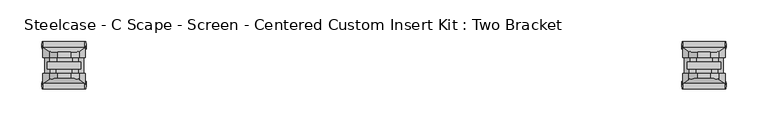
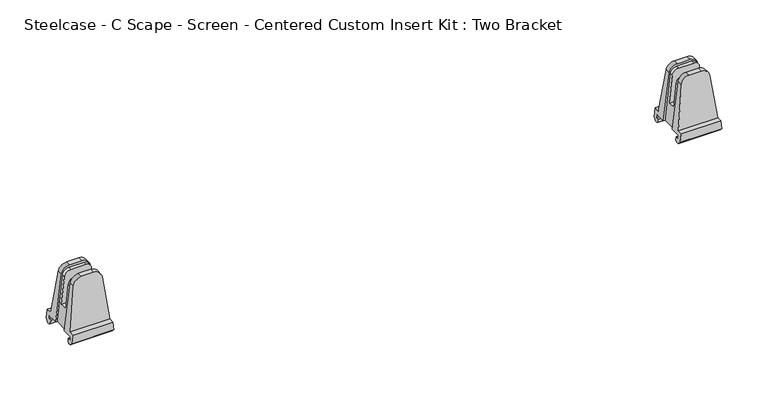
"""IFC4 building model written with IfcOpenShell, lengths in millimetres: furniture geometry, Steelcase - C Scape - Screen - Centered Custom Insert Kit : Two Bracket."""

from ifc_helpers import new_model, si_unit, frame, origin, place, context, project, spatial, circle_curve, ellipse_curve, source, transform, mapped, element, save
from ifc_brep_helpers import plane_surface, cylinder_surface, advanced_brep


def steelcase_c_scape_screen_centered_custom_insert_kit_two_15844b5a(model_context):
    return source(origin(), model_context, "Body", "AdvancedBrep", [
        advanced_brep(
        [(831.1509563, -3.1752569, 793.5976353), (838.7547419, -3.1752569, 793.5976353), (846.4009668, -3.1752569, 793.5976353), (846.4009668, 3.17474, 793.5976353), (838.7547419, 3.17474, 793.5976353), (831.1509563, 3.17474, 793.5976353), (820.8397645, -3.1752569, 784.4759275), (813.3961946, -3.1752569, 723.9), (815.4800991, -3.1752569, 723.9), (821.7386704, -3.1752569, 783.4463283), (829.7405253, -3.1752569, 790.6512308), (849.3384021, -3.1752569, 790.6512308), (855.6539246, -3.1752569, 784.9620449), (862.0430489, -3.1752569, 723.9), (864.1557285, -3.1752569, 723.9), (856.7121585, -3.1752569, 784.4759275), (813.3961946, 10.1600734, 723.9), (864.1557285, 10.1600734, 723.9), (862.0430489, -22.2252569, 723.9), (864.1557285, -22.2250614, 723.9), (864.1557285, -35.5603917, 723.9), (813.3961946, -35.5603917, 723.9), (813.3961946, -22.2250614, 723.9), (815.4800991, -22.2250614, 723.9), (812.9275467, 10.1600734, 720.086134), (864.6243764, 10.1600734, 720.086134), (812.9275467, 6.7312129, 720.086134), (864.6243764, 6.7312129, 720.086134), (812.3969536, 6.7312129, 715.7681562), (865.1549695, 6.7312129, 715.7681562), (812.1863055, 9.1438564, 714.375), (865.3231783, 9.1438564, 714.375), (812.2257626, 11.8111354, 714.375), (865.3231783, 11.8111354, 714.375), (812.6939371, 15.6202052, 718.1850145), (864.8579859, 15.6202052, 718.1850145), (814.0422753, 15.6202052, 729.1578186), (863.5096478, 15.6202052, 729.1578186), (814.0422753, 8.8135415, 729.1578186), (863.5096478, 8.8135415, 729.1578186), (820.8397645, 3.9729344, 784.4759275), (856.7121585, 3.9729344, 784.4759275), (814.0422753, -34.2138598, 729.1578186), (863.5096478, -34.2138598, 729.1578186), (856.7121585, -29.3732527, 784.4759275), (846.4009668, -28.5750583, 793.5976353), (838.7547419, -28.5750583, 793.5976353), (831.1509563, -28.5750583, 793.5976353), (820.8397645, -29.3732527, 784.4759275), (814.0422753, -41.0205235, 729.1578186), (863.5096478, -41.0205235, 729.1578186), (812.6939371, -41.0205235, 718.1850145), (864.8579859, -41.0205235, 718.1850145), (812.1863055, -37.2114537, 714.375), (865.3231783, -37.2114537, 714.375), (812.2257626, -34.5441746, 714.375), (865.3231783, -34.5441746, 714.375), (812.3969536, -32.1315312, 715.7681562), (865.1549695, -32.1315312, 715.7681562), (812.9275467, -32.1315312, 720.086134), (864.6243764, -32.1315312, 720.086134), (812.9275467, -35.5603917, 720.086134), (864.6243764, -35.5603917, 720.086134), (831.1509563, -22.2250614, 793.5976353), (838.7547419, -22.2250614, 793.5976353), (846.4009668, -22.2250614, 793.5976353), (856.7121585, -22.2250614, 784.4759275), (856.1960885, -22.2250614, 779.780484), (848.4144113, -22.2250614, 786.79042), (828.887828, -22.2250614, 786.79042), (821.3795976, -22.2250614, 780.0299789), (820.8397645, -22.2250614, 784.4759275), (828.887828, -17.4500569, 786.79042), (848.4144113, -17.4500569, 786.79042), (856.1960885, -17.4500569, 779.780484), (859.4810426, -17.4500569, 748.3855694), (818.0536361, -17.4500569, 748.3855694), (821.3795976, -17.4500569, 780.0299789), (818.0536361, -7.9504569, 748.3855694), (821.7386704, -7.9504569, 783.4463283), (855.6539246, -7.9504569, 784.9620449), (859.4810426, -7.9504569, 748.3855694), (829.7405253, -7.9504569, 790.6512308), (849.3384021, -7.9504569, 790.6512308)],
        [
            (0, 1),
            (1, 2),
            (2, 3),
            (3, 4),
            (4, 5),
            (5, 0),
            (0, 6, circle_curve(frame((831.1509563, -3.1752569, 783.2088883), z_axis=(0.0, -1.0, 0.0), x_axis=(-1.0, 0.0, 0.0)), 10.388747)),
            (6, 7),
            (7, 8),
            (8, 9),
            (9, 10, circle_curve(frame((829.7405253, -3.1752569, 782.6052995), z_axis=(0.0, 1.0, 0.0), x_axis=(1.0, 0.0, 0.0)), 8.0459313)),
            (10, 11),
            (11, 12, circle_curve(frame((849.3384021, -3.1752569, 784.3012308), z_axis=(0.0, 1.0, 0.0), x_axis=(1.0, 0.0, 0.0)), 6.35)),
            (12, 13),
            (13, 14),
            (14, 15),
            (15, 2, circle_curve(frame((846.4009668, -3.1752569, 783.2088883), z_axis=(0.0, -1.0, 0.0), x_axis=(1.0, 0.0, 0.0)), 10.388747)),
            (16, 17),
            (17, 14),
            (13, 18),
            (18, 19),
            (19, 20),
            (20, 21),
            (21, 22),
            (22, 23),
            (23, 8),
            (7, 16),
            (16, 24),
            (24, 25),
            (25, 17),
            (24, 26),
            (26, 27),
            (27, 25),
            (26, 28),
            (28, 29),
            (29, 27),
            (30, 31),
            (31, 29),
            (28, 30),
            (30, 32),
            (32, 33),
            (33, 31),
            (32, 34),
            (34, 35),
            (35, 33),
            (34, 36),
            (36, 37),
            (37, 35),
            (36, 38),
            (38, 39),
            (39, 37),
            (38, 40),
            (40, 5, ellipse_curve(frame((831.1509563, 4.0838066, 783.2088883), z_axis=(0.0, 0.9961932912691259, 0.08717182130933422), x_axis=(0.0, 0.08717182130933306, -0.9961932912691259)), 10.428445, 10.388747)),
            (3, 41, ellipse_curve(frame((846.4009668, 4.0838066, 783.2088883), z_axis=(0.0, 0.9961932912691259, 0.08717182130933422), x_axis=(0.0, 0.08717182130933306, -0.9961932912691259)), 10.428445, 10.388747)),
            (41, 39),
            (42, 43),
            (43, 44),
            (44, 45, ellipse_curve(frame((846.4009668, -29.4841248, 783.2088883), z_axis=(0.0, -0.9961932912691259, 0.08717182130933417), x_axis=(0.0, 0.08717182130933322, 0.996193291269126)), 10.428445, 10.388747)),
            (45, 46),
            (46, 47),
            (47, 48, ellipse_curve(frame((831.1509563, -29.4841248, 783.2088883), z_axis=(0.0, -0.9961932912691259, 0.08717182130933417), x_axis=(0.0, 0.08717182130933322, 0.996193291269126)), 10.428445, 10.388747)),
            (48, 42),
            (42, 49),
            (49, 50),
            (50, 43),
            (49, 51),
            (51, 52),
            (52, 50),
            (53, 54),
            (54, 52),
            (51, 53),
            (53, 55),
            (55, 56),
            (56, 54),
            (55, 57),
            (57, 58),
            (58, 56),
            (57, 59),
            (59, 60),
            (60, 58),
            (59, 61),
            (61, 62),
            (62, 60),
            (61, 21),
            (20, 62),
            (63, 64),
            (64, 65),
            (65, 66, circle_curve(frame((846.4009668, -22.2250614, 783.2088883), z_axis=(0.0, 1.0, 0.0), x_axis=(1.0, 0.0, 0.0)), 10.388747)),
            (66, 19),
            (18, 67),
            (67, 68, circle_curve(frame((848.4144113, -22.2250614, 778.9662613), z_axis=(0.0, -1.0, 0.0), x_axis=(1.0, 0.0, 0.0)), 7.8241587)),
            (68, 69),
            (69, 70, circle_curve(frame((828.887828, -22.2250614, 779.2408321), z_axis=(0.0, -1.0, 0.0), x_axis=(1.0, 0.0, 0.0)), 7.5495878)),
            (70, 23),
            (22, 71),
            (71, 63, circle_curve(frame((831.1509563, -22.2250614, 783.2088883), z_axis=(0.0, 1.0, 0.0), x_axis=(-1.0, 0.0, 0.0)), 10.388747)),
            (45, 65),
            (63, 47),
            (6, 40),
            (48, 71),
            (15, 41),
            (44, 66),
            (72, 73),
            (73, 74, circle_curve(frame((848.4144113, -17.4500569, 778.9662613), z_axis=(0.0, 1.0, 0.0), x_axis=(1.0, 0.0, 0.0)), 7.8241587)),
            (74, 75),
            (75, 76),
            (76, 77),
            (77, 72, circle_curve(frame((828.887828, -17.4500569, 779.2408321), z_axis=(0.0, 1.0, 0.0), x_axis=(1.0, 0.0, 0.0)), 7.5495878)),
            (77, 70),
            (69, 72),
            (76, 78),
            (78, 79),
            (79, 9),
            (12, 80),
            (80, 81),
            (81, 75),
            (74, 67),
            (73, 68),
            (82, 79, circle_curve(frame((829.7405253, -7.9504569, 782.6052995), z_axis=(0.0, -1.0, 0.0), x_axis=(1.0, 0.0, 0.0)), 8.0459313)),
            (78, 81),
            (80, 83, circle_curve(frame((849.3384021, -7.9504569, 784.3012308), z_axis=(0.0, -1.0, 0.0), x_axis=(1.0, 0.0, 0.0)), 6.35)),
            (83, 82),
            (82, 10),
            (11, 83),
        ],
        [
            plane_surface(frame((865.3231783, 3.17474, 793.5976353), z_axis=(0.0, 0.0, 1.0), x_axis=(-1.0, 0.0, 0.0))),
            plane_surface(frame((865.3231783, -3.1752569, 793.5976353), z_axis=(0.0, -1.0, 0.0), x_axis=(-1.0, 0.0, 0.0))),
            plane_surface(frame((865.3231783, -3.1752569, 723.9), z_axis=(0.0, 0.0, -1.0), x_axis=(-1.0, 0.0, 0.0))),
            plane_surface(frame((865.3231783, 10.1600734, 723.9), z_axis=(0.0, -1.0, 0.0), x_axis=(-1.0, 0.0, 0.0))),
            plane_surface(frame((865.3231783, 10.1600734, 720.086134), z_axis=(0.0, 0.0, 1.0), x_axis=(-1.0, 0.0, 0.0))),
            plane_surface(frame((865.3231783, 6.7312129, 720.086134), z_axis=(0.0, -1.0, 0.0), x_axis=(-1.0, 0.0, 0.0))),
            plane_surface(frame((865.3231783, 6.7312129, 715.7681562), z_axis=(0.0, -0.5000581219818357, -0.8659918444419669), x_axis=(-1.0, 0.0, 0.0))),
            plane_surface(frame((865.3231783, 9.1438564, 714.375), z_axis=(0.0, 0.0, -1.0), x_axis=(-1.0, 0.0, 0.0))),
            plane_surface(frame((865.3231783, 11.8111354, 714.375), z_axis=(0.0, 0.7071944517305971, -0.7070190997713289), x_axis=(-1.0, 0.0, 0.0))),
            plane_surface(frame((865.3231783, 15.6202052, 718.1850145), z_axis=(0.0, 1.0, 0.0), x_axis=(-1.0, 0.0, 0.0))),
            plane_surface(frame((865.3231783, 15.6202052, 729.1578186), z_axis=(0.0, 0.0, 1.0), x_axis=(-1.0, 0.0, 0.0))),
            plane_surface(frame((865.3231783, 8.8135415, 729.1578186), z_axis=(0.0, 0.9961932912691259, 0.08717182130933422), x_axis=(-1.0, 0.0, 0.0))),
            plane_surface(frame((865.3231783, -28.5750583, 793.5976353), z_axis=(0.0, -0.9961932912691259, 0.08717182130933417), x_axis=(-1.0, 0.0, 0.0))),
            plane_surface(frame((865.3231783, -34.2138598, 729.1578186), z_axis=(0.0, 0.0, 1.0), x_axis=(-1.0, 0.0, 0.0))),
            plane_surface(frame((865.3231783, -41.0205235, 729.1578186), z_axis=(0.0, -1.0, 0.0), x_axis=(-1.0, 0.0, 0.0))),
            plane_surface(frame((865.3231783, -41.0205235, 718.1850145), z_axis=(0.0, -0.7071944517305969, -0.707019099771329), x_axis=(-1.0, 0.0, 0.0))),
            plane_surface(frame((865.3231783, -37.2114537, 714.375), z_axis=(0.0, 0.0, -1.0), x_axis=(-1.0, 0.0, 0.0))),
            plane_surface(frame((865.3231783, -34.5441746, 714.375), z_axis=(0.0, 0.5000581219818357, -0.8659918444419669), x_axis=(-1.0, 0.0, 0.0))),
            plane_surface(frame((865.3231783, -32.1315312, 715.7681562), z_axis=(0.0, 1.0, 0.0), x_axis=(-1.0, 0.0, 0.0))),
            plane_surface(frame((865.3231783, -32.1315312, 720.086134), z_axis=(0.0, 0.0, 1.0), x_axis=(-1.0, 0.0, 0.0))),
            plane_surface(frame((865.3231783, -35.5603917, 720.086134), z_axis=(0.0, 1.0, 0.0), x_axis=(-1.0, 0.0, 0.0))),
            plane_surface(frame((865.3231783, -22.2250614, 723.9), z_axis=(0.0, 1.0, 0.0), x_axis=(-1.0, 0.0, 0.0))),
            plane_surface(frame((865.3231783, -22.2250614, 793.5976353), z_axis=(0.0, 0.0, 1.0), x_axis=(-1.0, 0.0, 0.0))),
            plane_surface(frame((812.2257626, -43.2064559, 714.375), z_axis=(-0.9925346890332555, 0.0, 0.12196266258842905), x_axis=(0.0, 1.0, 0.0))),
            cylinder_surface(frame((831.1509563, 17.5208706, 783.2088883), z_axis=(0.0, 1.0, 0.0), x_axis=(-1.0, 0.0, 0.0)), 10.388747),
            cylinder_surface(frame((846.4009668, 17.5208706, 783.2088883), z_axis=(0.0, 1.0, 0.0), x_axis=(1.0, 0.0, 0.0)), 10.388747),
            plane_surface(frame((856.7121585, -43.2064559, 784.4759275), z_axis=(0.9925346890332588, 0.0, 0.12196266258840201), x_axis=(0.0, 1.0, 0.0))),
            plane_surface(frame((836.4374158, -17.4500569, 779.2408321), z_axis=(0.0, 1.0, 0.0), x_axis=(0.0, 0.0, -1.0))),
            cylinder_surface(frame((828.887828, -17.4500569, 779.2408321), z_axis=(0.0, -1.0, 0.0), x_axis=(1.0, 0.0, 0.0)), 7.5495878),
            plane_surface(frame((821.3795976, -22.2252569, 780.0299789), z_axis=(-0.9945218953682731, 0.0, 0.10452846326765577), x_axis=(0.0, 1.0, 0.0))),
            plane_surface(frame((862.0430489, -22.2252569, 723.9), z_axis=(0.9945704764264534, 0.0, 0.10406520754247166), x_axis=(0.0, 1.0, 0.0))),
            cylinder_surface(frame((848.4144113, -17.4500569, 778.9662613), z_axis=(0.0, -1.0, 0.0), x_axis=(1.0, 0.0, 0.0)), 7.8241587),
            plane_surface(frame((848.4144113, -22.2252569, 786.79042), z_axis=(0.0, 0.0, 1.0), x_axis=(0.0, 1.0, 0.0))),
            plane_surface(frame((837.7864566, -7.9504569, 782.6052995), z_axis=(0.0, -1.0, 0.0), x_axis=(0.0, 0.0, 1.0))),
            cylinder_surface(frame((829.7405253, -3.1752569, 782.6052995), z_axis=(0.0, -1.0, 0.0), x_axis=(1.0, 0.0, 0.0)), 8.0459313),
            cylinder_surface(frame((849.3384021, -3.1752569, 784.3012308), z_axis=(0.0, -1.0, 0.0), x_axis=(1.0, 0.0, 0.0)), 6.35),
            plane_surface(frame((849.3384021, -7.9504569, 790.6512308), z_axis=(0.0, 0.0, 1.0), x_axis=(0.0, 1.0, 0.0))),
            plane_surface(frame((859.4810426, -17.4500569, 748.3855694), z_axis=(0.0, 0.0, 1.0), x_axis=(0.0, 1.0, 0.0))),
        ],
        [
            (0, [[1, 2, 3, 4, 5, 6]]),
            (1, [[-1, 7, 8, 9, 10, 11, 12, 13, 14, 15, 16, 17, -2]]),
            (2, [[18, 19, -15, 20, 21, 22, 23, 24, 25, 26, -9, 27]]),
            (3, [[-18, 28, 29, 30]]),
            (4, [[-29, 31, 32, 33]]),
            (5, [[-32, 34, 35, 36]]),
            (6, [[37, 38, -35, 39]]),
            (7, [[-37, 40, 41, 42]]),
            (8, [[-41, 43, 44, 45]]),
            (9, [[-44, 46, 47, 48]]),
            (10, [[-47, 49, 50, 51]]),
            (11, [[-50, 52, 53, -5, -4, 54, 55]]),
            (12, [[56, 57, 58, 59, 60, 61, 62]]),
            (13, [[-56, 63, 64, 65]]),
            (14, [[-64, 66, 67, 68]]),
            (15, [[69, 70, -67, 71]]),
            (16, [[-69, 72, 73, 74]]),
            (17, [[-73, 75, 76, 77]]),
            (18, [[-76, 78, 79, 80]]),
            (19, [[-79, 81, 82, 83]]),
            (20, [[-82, 84, -23, 85]]),
            (21, [[86, 87, 88, 89, -21, 90, 91, 92, 93, 94, -25, 95, 96]]),
            (22, [[-59, 97, -87, -86, 98, -60]]),
            (23, [[99, -52, -49, -46, -43, -40, -39, -34, -31, -28, -27, -8]]),
            (23, [[100, -95, -24, -84, -81, -78, -75, -72, -71, -66, -63, -62]]),
            (24, [[-99, -7, -6, -53]]),
            (24, [[-100, -61, -98, -96]]),
            (25, [[101, -54, -3, -17]]),
            (25, [[102, -88, -97, -58]]),
            (26, [[-101, -16, -19, -30, -33, -36, -38, -42, -45, -48, -51, -55]]),
            (26, [[-102, -57, -65, -68, -70, -74, -77, -80, -83, -85, -22, -89]]),
            (27, [[103, 104, 105, 106, 107, 108]]),
            (28, [[-108, 109, -93, 110]]),
            (29, [[-109, -107, 111, 112, 113, -10, -26, -94]]),
            (30, [[-20, -14, 114, 115, 116, -105, 117, -90]]),
            (31, [[-104, 118, -91, -117]]),
            (32, [[-103, -110, -92, -118]]),
            (33, [[119, -112, 120, -115, 121, 122]]),
            (34, [[-119, 123, -11, -113]]),
            (35, [[-121, -114, -13, 124]]),
            (36, [[-122, -124, -12, -123]]),
            (37, [[-111, -106, -116, -120]]),
        ],
    ),
        advanced_brep(
        [(67.0173627, -3.1752569, 793.5976353), (74.6211483, -3.1752569, 793.5976353), (82.2673732, -3.1752569, 793.5976353), (82.2673732, 3.17474, 793.5976353), (74.6211483, 3.17474, 793.5976353), (67.0173627, 3.17474, 793.5976353), (56.706171, -3.1752569, 784.4759275), (49.262601, -3.1752569, 723.9), (51.3465055, -3.1752569, 723.9), (57.6050768, -3.1752569, 783.4463283), (65.6069317, -3.1752569, 790.6512308), (85.2048085, -3.1752569, 790.6512308), (91.520331, -3.1752569, 784.9620449), (97.9094553, -3.1752569, 723.9), (100.0221349, -3.1752569, 723.9), (92.578565, -3.1752569, 784.4759275), (49.262601, 10.1600734, 723.9), (100.0221349, 10.1600734, 723.9), (97.9094553, -22.2252569, 723.9), (100.0221349, -22.2250614, 723.9), (100.0221349, -35.5603917, 723.9), (49.262601, -35.5603917, 723.9), (49.262601, -22.2250614, 723.9), (51.3465055, -22.2250614, 723.9), (48.7939531, 10.1600734, 720.086134), (100.4907828, 10.1600734, 720.086134), (48.7939531, 6.7312129, 720.086134), (100.4907828, 6.7312129, 720.086134), (48.26336, 6.7312129, 715.7681562), (101.0213759, 6.7312129, 715.7681562), (48.0527119, 9.1438564, 714.375), (101.1895848, 9.1438564, 714.375), (48.092169, 11.8111354, 714.375), (101.1895848, 11.8111354, 714.375), (48.5603436, 15.6202052, 718.1850145), (100.7243923, 15.6202052, 718.1850145), (49.9086817, 15.6202052, 729.1578186), (99.3760542, 15.6202052, 729.1578186), (49.9086817, 8.8135415, 729.1578186), (99.3760542, 8.8135415, 729.1578186), (56.706171, 3.9729344, 784.4759275), (92.578565, 3.9729344, 784.4759275), (49.9086817, -34.2138598, 729.1578186), (99.3760542, -34.2138598, 729.1578186), (92.578565, -29.3732527, 784.4759275), (82.2673732, -28.5750583, 793.5976353), (74.6211483, -28.5750583, 793.5976353), (67.0173627, -28.5750583, 793.5976353), (56.706171, -29.3732527, 784.4759275), (49.9086817, -41.0205235, 729.1578186), (99.3760542, -41.0205235, 729.1578186), (48.5603436, -41.0205235, 718.1850145), (100.7243923, -41.0205235, 718.1850145), (48.0527119, -37.2114537, 714.375), (101.1895848, -37.2114537, 714.375), (48.092169, -34.5441746, 714.375), (101.1895848, -34.5441746, 714.375), (48.26336, -32.1315312, 715.7681562), (101.0213759, -32.1315312, 715.7681562), (48.7939531, -32.1315312, 720.086134), (100.4907828, -32.1315312, 720.086134), (48.7939531, -35.5603917, 720.086134), (100.4907828, -35.5603917, 720.086134), (67.0173627, -22.2250614, 793.5976353), (74.6211483, -22.2250614, 793.5976353), (82.2673732, -22.2250614, 793.5976353), (92.578565, -22.2250614, 784.4759275), (92.0624949, -22.2250614, 779.780484), (84.2808177, -22.2250614, 786.79042), (64.7542344, -22.2250614, 786.79042), (57.246004, -22.2250614, 780.0299789), (56.706171, -22.2250614, 784.4759275), (64.7542344, -17.4500569, 786.79042), (84.2808177, -17.4500569, 786.79042), (92.0624949, -17.4500569, 779.780484), (95.347449, -17.4500569, 748.3855694), (53.9200426, -17.4500569, 748.3855694), (57.246004, -17.4500569, 780.0299789), (53.9200426, -7.9504569, 748.3855694), (57.6050768, -7.9504569, 783.4463283), (91.520331, -7.9504569, 784.9620449), (95.347449, -7.9504569, 748.3855694), (65.6069317, -7.9504569, 790.6512308), (85.2048085, -7.9504569, 790.6512308)],
        [
            (0, 1),
            (1, 2),
            (2, 3),
            (3, 4),
            (4, 5),
            (5, 0),
            (0, 6, circle_curve(frame((67.0173627, -3.1752569, 783.2088883), z_axis=(0.0, -1.0, 0.0), x_axis=(-1.0, 0.0, 0.0)), 10.388747)),
            (6, 7),
            (7, 8),
            (8, 9),
            (9, 10, circle_curve(frame((65.6069317, -3.1752569, 782.6052995), z_axis=(0.0, 1.0, 0.0), x_axis=(1.0, 0.0, 0.0)), 8.0459313)),
            (10, 11),
            (11, 12, circle_curve(frame((85.2048085, -3.1752569, 784.3012308), z_axis=(0.0, 1.0, 0.0), x_axis=(1.0, 0.0, 0.0)), 6.35)),
            (12, 13),
            (13, 14),
            (14, 15),
            (15, 2, circle_curve(frame((82.2673732, -3.1752569, 783.2088883), z_axis=(0.0, -1.0, 0.0), x_axis=(1.0, 0.0, 0.0)), 10.388747)),
            (16, 17),
            (17, 14),
            (13, 18),
            (18, 19),
            (19, 20),
            (20, 21),
            (21, 22),
            (22, 23),
            (23, 8),
            (7, 16),
            (16, 24),
            (24, 25),
            (25, 17),
            (24, 26),
            (26, 27),
            (27, 25),
            (26, 28),
            (28, 29),
            (29, 27),
            (30, 31),
            (31, 29),
            (28, 30),
            (30, 32),
            (32, 33),
            (33, 31),
            (32, 34),
            (34, 35),
            (35, 33),
            (34, 36),
            (36, 37),
            (37, 35),
            (36, 38),
            (38, 39),
            (39, 37),
            (38, 40),
            (40, 5, ellipse_curve(frame((67.0173627, 4.0838066, 783.2088883), z_axis=(0.0, 0.9961932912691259, 0.08717182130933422), x_axis=(0.0, 0.08717182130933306, -0.9961932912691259)), 10.428445, 10.388747)),
            (3, 41, ellipse_curve(frame((82.2673732, 4.0838066, 783.2088883), z_axis=(0.0, 0.9961932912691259, 0.08717182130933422), x_axis=(0.0, 0.08717182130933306, -0.9961932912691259)), 10.428445, 10.388747)),
            (41, 39),
            (42, 43),
            (43, 44),
            (44, 45, ellipse_curve(frame((82.2673732, -29.4841248, 783.2088883), z_axis=(0.0, -0.9961932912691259, 0.08717182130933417), x_axis=(0.0, 0.08717182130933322, 0.996193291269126)), 10.428445, 10.388747)),
            (45, 46),
            (46, 47),
            (47, 48, ellipse_curve(frame((67.0173627, -29.4841248, 783.2088883), z_axis=(0.0, -0.9961932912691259, 0.08717182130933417), x_axis=(0.0, 0.08717182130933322, 0.996193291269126)), 10.428445, 10.388747)),
            (48, 42),
            (42, 49),
            (49, 50),
            (50, 43),
            (49, 51),
            (51, 52),
            (52, 50),
            (53, 54),
            (54, 52),
            (51, 53),
            (53, 55),
            (55, 56),
            (56, 54),
            (55, 57),
            (57, 58),
            (58, 56),
            (57, 59),
            (59, 60),
            (60, 58),
            (59, 61),
            (61, 62),
            (62, 60),
            (61, 21),
            (20, 62),
            (63, 64),
            (64, 65),
            (65, 66, circle_curve(frame((82.2673732, -22.2250614, 783.2088883), z_axis=(0.0, 1.0, 0.0), x_axis=(1.0, 0.0, 0.0)), 10.388747)),
            (66, 19),
            (18, 67),
            (67, 68, circle_curve(frame((84.2808177, -22.2250614, 778.9662613), z_axis=(0.0, -1.0, 0.0), x_axis=(1.0, 0.0, 0.0)), 7.8241587)),
            (68, 69),
            (69, 70, circle_curve(frame((64.7542344, -22.2250614, 779.2408321), z_axis=(0.0, -1.0, 0.0), x_axis=(1.0, 0.0, 0.0)), 7.5495878)),
            (70, 23),
            (22, 71),
            (71, 63, circle_curve(frame((67.0173627, -22.2250614, 783.2088883), z_axis=(0.0, 1.0, 0.0), x_axis=(-1.0, 0.0, 0.0)), 10.388747)),
            (45, 65),
            (63, 47),
            (6, 40),
            (48, 71),
            (15, 41),
            (44, 66),
            (72, 73),
            (73, 74, circle_curve(frame((84.2808177, -17.4500569, 778.9662613), z_axis=(0.0, 1.0, 0.0), x_axis=(1.0, 0.0, 0.0)), 7.8241587)),
            (74, 75),
            (75, 76),
            (76, 77),
            (77, 72, circle_curve(frame((64.7542344, -17.4500569, 779.2408321), z_axis=(0.0, 1.0, 0.0), x_axis=(1.0, 0.0, 0.0)), 7.5495878)),
            (77, 70),
            (69, 72),
            (76, 78),
            (78, 79),
            (79, 9),
            (12, 80),
            (80, 81),
            (81, 75),
            (74, 67),
            (73, 68),
            (82, 79, circle_curve(frame((65.6069317, -7.9504569, 782.6052995), z_axis=(0.0, -1.0, 0.0), x_axis=(1.0, 0.0, 0.0)), 8.0459313)),
            (78, 81),
            (80, 83, circle_curve(frame((85.2048085, -7.9504569, 784.3012308), z_axis=(0.0, -1.0, 0.0), x_axis=(1.0, 0.0, 0.0)), 6.35)),
            (83, 82),
            (82, 10),
            (11, 83),
        ],
        [
            plane_surface(frame((101.1895848, 3.17474, 793.5976353), z_axis=(0.0, 0.0, 1.0), x_axis=(-1.0, 0.0, 0.0))),
            plane_surface(frame((101.1895848, -3.1752569, 793.5976353), z_axis=(0.0, -1.0, 0.0), x_axis=(-1.0, 0.0, 0.0))),
            plane_surface(frame((101.1895848, -3.1752569, 723.9), z_axis=(0.0, 0.0, -1.0), x_axis=(-1.0, 0.0, 0.0))),
            plane_surface(frame((101.1895848, 10.1600734, 723.9), z_axis=(0.0, -1.0, 0.0), x_axis=(-1.0, 0.0, 0.0))),
            plane_surface(frame((101.1895848, 10.1600734, 720.086134), z_axis=(0.0, 0.0, 1.0), x_axis=(-1.0, 0.0, 0.0))),
            plane_surface(frame((101.1895848, 6.7312129, 720.086134), z_axis=(0.0, -1.0, 0.0), x_axis=(-1.0, 0.0, 0.0))),
            plane_surface(frame((101.1895848, 6.7312129, 715.7681562), z_axis=(0.0, -0.5000581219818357, -0.8659918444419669), x_axis=(-1.0, 0.0, 0.0))),
            plane_surface(frame((101.1895848, 9.1438564, 714.375), z_axis=(0.0, 0.0, -1.0), x_axis=(-1.0, 0.0, 0.0))),
            plane_surface(frame((101.1895848, 11.8111354, 714.375), z_axis=(0.0, 0.7071944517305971, -0.7070190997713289), x_axis=(-1.0, 0.0, 0.0))),
            plane_surface(frame((101.1895848, 15.6202052, 718.1850145), z_axis=(0.0, 1.0, 0.0), x_axis=(-1.0, 0.0, 0.0))),
            plane_surface(frame((101.1895848, 15.6202052, 729.1578186), z_axis=(0.0, 0.0, 1.0), x_axis=(-1.0, 0.0, 0.0))),
            plane_surface(frame((101.1895848, 8.8135415, 729.1578186), z_axis=(0.0, 0.9961932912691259, 0.08717182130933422), x_axis=(-1.0, 0.0, 0.0))),
            plane_surface(frame((101.1895848, -28.5750583, 793.5976353), z_axis=(0.0, -0.9961932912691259, 0.08717182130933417), x_axis=(-1.0, 0.0, 0.0))),
            plane_surface(frame((101.1895848, -34.2138598, 729.1578186), z_axis=(0.0, 0.0, 1.0), x_axis=(-1.0, 0.0, 0.0))),
            plane_surface(frame((101.1895848, -41.0205235, 729.1578186), z_axis=(0.0, -1.0, 0.0), x_axis=(-1.0, 0.0, 0.0))),
            plane_surface(frame((101.1895848, -41.0205235, 718.1850145), z_axis=(0.0, -0.7071944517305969, -0.707019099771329), x_axis=(-1.0, 0.0, 0.0))),
            plane_surface(frame((101.1895848, -37.2114537, 714.375), z_axis=(0.0, 0.0, -1.0), x_axis=(-1.0, 0.0, 0.0))),
            plane_surface(frame((101.1895848, -34.5441746, 714.375), z_axis=(0.0, 0.5000581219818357, -0.8659918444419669), x_axis=(-1.0, 0.0, 0.0))),
            plane_surface(frame((101.1895848, -32.1315312, 715.7681562), z_axis=(0.0, 1.0, 0.0), x_axis=(-1.0, 0.0, 0.0))),
            plane_surface(frame((101.1895848, -32.1315312, 720.086134), z_axis=(0.0, 0.0, 1.0), x_axis=(-1.0, 0.0, 0.0))),
            plane_surface(frame((101.1895848, -35.5603917, 720.086134), z_axis=(0.0, 1.0, 0.0), x_axis=(-1.0, 0.0, 0.0))),
            plane_surface(frame((101.1895848, -22.2250614, 723.9), z_axis=(0.0, 1.0, 0.0), x_axis=(-1.0, 0.0, 0.0))),
            plane_surface(frame((101.1895848, -22.2250614, 793.5976353), z_axis=(0.0, 0.0, 1.0), x_axis=(-1.0, 0.0, 0.0))),
            plane_surface(frame((48.092169, -43.2064559, 714.375), z_axis=(-0.9925346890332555, 0.0, 0.12196266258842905), x_axis=(0.0, 1.0, 0.0))),
            cylinder_surface(frame((67.0173627, 17.5208706, 783.2088883), z_axis=(0.0, 1.0, 0.0), x_axis=(-1.0, 0.0, 0.0)), 10.388747),
            cylinder_surface(frame((82.2673732, 17.5208706, 783.2088883), z_axis=(0.0, 1.0, 0.0), x_axis=(1.0, 0.0, 0.0)), 10.388747),
            plane_surface(frame((92.578565, -43.2064559, 784.4759275), z_axis=(0.9925346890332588, 0.0, 0.12196266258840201), x_axis=(0.0, 1.0, 0.0))),
            plane_surface(frame((72.3038223, -17.4500569, 779.2408321), z_axis=(0.0, 1.0, 0.0), x_axis=(0.0, 0.0, -1.0))),
            cylinder_surface(frame((64.7542344, -17.4500569, 779.2408321), z_axis=(0.0, -1.0, 0.0), x_axis=(1.0, 0.0, 0.0)), 7.5495878),
            plane_surface(frame((57.246004, -22.2252569, 780.0299789), z_axis=(-0.9945218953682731, 0.0, 0.10452846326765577), x_axis=(0.0, 1.0, 0.0))),
            plane_surface(frame((97.9094553, -22.2252569, 723.9), z_axis=(0.9945704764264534, 0.0, 0.10406520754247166), x_axis=(0.0, 1.0, 0.0))),
            cylinder_surface(frame((84.2808177, -17.4500569, 778.9662613), z_axis=(0.0, -1.0, 0.0), x_axis=(1.0, 0.0, 0.0)), 7.8241587),
            plane_surface(frame((84.2808177, -22.2252569, 786.79042), z_axis=(0.0, 0.0, 1.0), x_axis=(0.0, 1.0, 0.0))),
            plane_surface(frame((73.652863, -7.9504569, 782.6052995), z_axis=(0.0, -1.0, 0.0), x_axis=(0.0, 0.0, 1.0))),
            cylinder_surface(frame((65.6069317, -3.1752569, 782.6052995), z_axis=(0.0, -1.0, 0.0), x_axis=(1.0, 0.0, 0.0)), 8.0459313),
            cylinder_surface(frame((85.2048085, -3.1752569, 784.3012308), z_axis=(0.0, -1.0, 0.0), x_axis=(1.0, 0.0, 0.0)), 6.35),
            plane_surface(frame((85.2048085, -7.9504569, 790.6512308), z_axis=(0.0, 0.0, 1.0), x_axis=(0.0, 1.0, 0.0))),
            plane_surface(frame((95.347449, -17.4500569, 748.3855694), z_axis=(0.0, 0.0, 1.0), x_axis=(0.0, 1.0, 0.0))),
        ],
        [
            (0, [[1, 2, 3, 4, 5, 6]]),
            (1, [[-1, 7, 8, 9, 10, 11, 12, 13, 14, 15, 16, 17, -2]]),
            (2, [[18, 19, -15, 20, 21, 22, 23, 24, 25, 26, -9, 27]]),
            (3, [[-18, 28, 29, 30]]),
            (4, [[-29, 31, 32, 33]]),
            (5, [[-32, 34, 35, 36]]),
            (6, [[37, 38, -35, 39]]),
            (7, [[-37, 40, 41, 42]]),
            (8, [[-41, 43, 44, 45]]),
            (9, [[-44, 46, 47, 48]]),
            (10, [[-47, 49, 50, 51]]),
            (11, [[-50, 52, 53, -5, -4, 54, 55]]),
            (12, [[56, 57, 58, 59, 60, 61, 62]]),
            (13, [[-56, 63, 64, 65]]),
            (14, [[-64, 66, 67, 68]]),
            (15, [[69, 70, -67, 71]]),
            (16, [[-69, 72, 73, 74]]),
            (17, [[-73, 75, 76, 77]]),
            (18, [[-76, 78, 79, 80]]),
            (19, [[-79, 81, 82, 83]]),
            (20, [[-82, 84, -23, 85]]),
            (21, [[86, 87, 88, 89, -21, 90, 91, 92, 93, 94, -25, 95, 96]]),
            (22, [[-59, 97, -87, -86, 98, -60]]),
            (23, [[99, -52, -49, -46, -43, -40, -39, -34, -31, -28, -27, -8]]),
            (23, [[100, -95, -24, -84, -81, -78, -75, -72, -71, -66, -63, -62]]),
            (24, [[-99, -7, -6, -53]]),
            (24, [[-100, -61, -98, -96]]),
            (25, [[101, -54, -3, -17]]),
            (25, [[102, -88, -97, -58]]),
            (26, [[-101, -16, -19, -30, -33, -36, -38, -42, -45, -48, -51, -55]]),
            (26, [[-102, -57, -65, -68, -70, -74, -77, -80, -83, -85, -22, -89]]),
            (27, [[103, 104, 105, 106, 107, 108]]),
            (28, [[-108, 109, -93, 110]]),
            (29, [[-109, -107, 111, 112, 113, -10, -26, -94]]),
            (30, [[-20, -14, 114, 115, 116, -105, 117, -90]]),
            (31, [[-104, 118, -91, -117]]),
            (32, [[-103, -110, -92, -118]]),
            (33, [[119, -112, 120, -115, 121, 122]]),
            (34, [[-119, 123, -11, -113]]),
            (35, [[-121, -114, -13, 124]]),
            (36, [[-122, -124, -12, -123]]),
            (37, [[-111, -106, -116, -120]]),
        ],
    ),
    ])


if __name__ == "__main__":
    model = new_model("IFC4")
    model_context = context("Model", 3, world=origin())
    ifc_project = project(units=[si_unit("LENGTHUNIT", "METRE", prefix="MILLI")], contexts=[model_context])
    site = spatial("IfcSite", under=ifc_project)
    building = spatial("IfcBuilding", under=site)
    placement = place(None, origin())
    steelcase_c_scape_screen_centered_custom_insert_kit_two_shape = steelcase_c_scape_screen_centered_custom_insert_kit_two_15844b5a(model_context)
    element("IfcFurniture", 1, ObjectType="Steelcase - C Scape - Screen - Centered Custom Insert Kit : Two Bracket", at=placement, inside=building, context=model_context, shape_type="MappedRepresentation", body=[
        mapped(steelcase_c_scape_screen_centered_custom_insert_kit_two_shape, transform((0.0, 0.0, 0.0), x_axis=(1.0, 0.0, 0.0), y_axis=(0.0, 1.0, 0.0), z_axis=(0.0, 0.0, 1.0))),
    ])
    save(model, "model.ifc")
